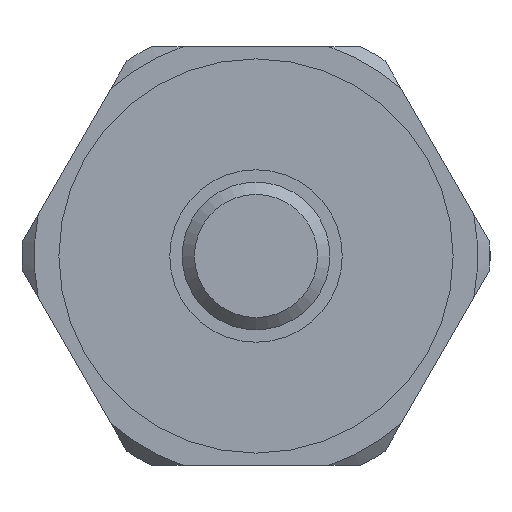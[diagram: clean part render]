
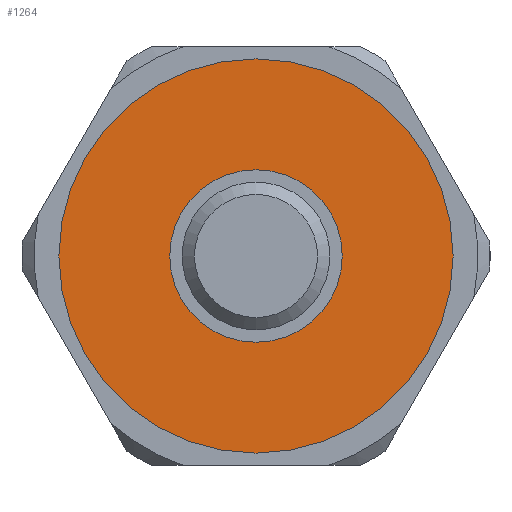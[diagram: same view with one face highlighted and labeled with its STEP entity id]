
A CAD part, left-side view. The second image highlights one B-rep face of the part: STEP entity #1264.
In plain terms, the highlighted planar face has unit normal (-1, 0, 0).
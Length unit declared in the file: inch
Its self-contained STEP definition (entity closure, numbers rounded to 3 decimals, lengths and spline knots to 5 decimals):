
#66=FACE_BOUND('',#217,.T.);
#92=PLANE('',#1399);
#144=FACE_OUTER_BOUND('',#216,.T.);
#216=EDGE_LOOP('',(#975,#976));
#217=EDGE_LOOP('',(#977,#978));
#370=CIRCLE('',#1327,0.1378);
#371=CIRCLE('',#1328,0.1378);
#406=CIRCLE('',#1397,0.31496);
#407=CIRCLE('',#1398,0.31496);
#475=VERTEX_POINT('',#1911);
#476=VERTEX_POINT('',#1912);
#535=VERTEX_POINT('',#2146);
#536=VERTEX_POINT('',#2147);
#603=EDGE_CURVE('',#475,#476,#370,.T.);
#604=EDGE_CURVE('',#476,#475,#371,.T.);
#696=EDGE_CURVE('',#535,#536,#406,.T.);
#697=EDGE_CURVE('',#536,#535,#407,.T.);
#975=ORIENTED_EDGE('',*,*,#696,.T.);
#976=ORIENTED_EDGE('',*,*,#697,.T.);
#977=ORIENTED_EDGE('',*,*,#603,.T.);
#978=ORIENTED_EDGE('',*,*,#604,.T.);
#1264=ADVANCED_FACE('',(#144,#66),#92,.T.);
#1327=AXIS2_PLACEMENT_3D('',#1913,#1512,#1513);
#1328=AXIS2_PLACEMENT_3D('',#1914,#1514,#1515);
#1397=AXIS2_PLACEMENT_3D('',#2148,#1685,#1686);
#1398=AXIS2_PLACEMENT_3D('',#2149,#1687,#1688);
#1399=AXIS2_PLACEMENT_3D('',#2151,#1690,#1691);
#1512=DIRECTION('center_axis',(1.,0.,0.));
#1513=DIRECTION('ref_axis',(0.,0.,1.));
#1514=DIRECTION('center_axis',(1.,0.,0.));
#1515=DIRECTION('ref_axis',(0.,0.,1.));
#1685=DIRECTION('center_axis',(-1.,0.,0.));
#1686=DIRECTION('ref_axis',(0.,0.,1.));
#1687=DIRECTION('center_axis',(-1.,0.,0.));
#1688=DIRECTION('ref_axis',(0.,0.,1.));
#1690=DIRECTION('center_axis',(-1.,0.,0.));
#1691=DIRECTION('ref_axis',(0.,0.,1.));
#1911=CARTESIAN_POINT('',(-2.21862,-0.42833,0.56421));
#1912=CARTESIAN_POINT('',(-2.21862,-0.42833,0.28862));
#1913=CARTESIAN_POINT('Origin',(-2.21862,-0.42833,0.42641));
#1914=CARTESIAN_POINT('Origin',(-2.21862,-0.42833,0.42641));
#2146=CARTESIAN_POINT('',(-2.21862,-0.42833,0.74137));
#2147=CARTESIAN_POINT('',(-2.21862,-0.42833,0.11145));
#2148=CARTESIAN_POINT('Origin',(-2.21862,-0.42833,0.42641));
#2149=CARTESIAN_POINT('Origin',(-2.21862,-0.42833,0.42641));
#2151=CARTESIAN_POINT('Origin',(-2.21862,-0.42833,0.42641));
